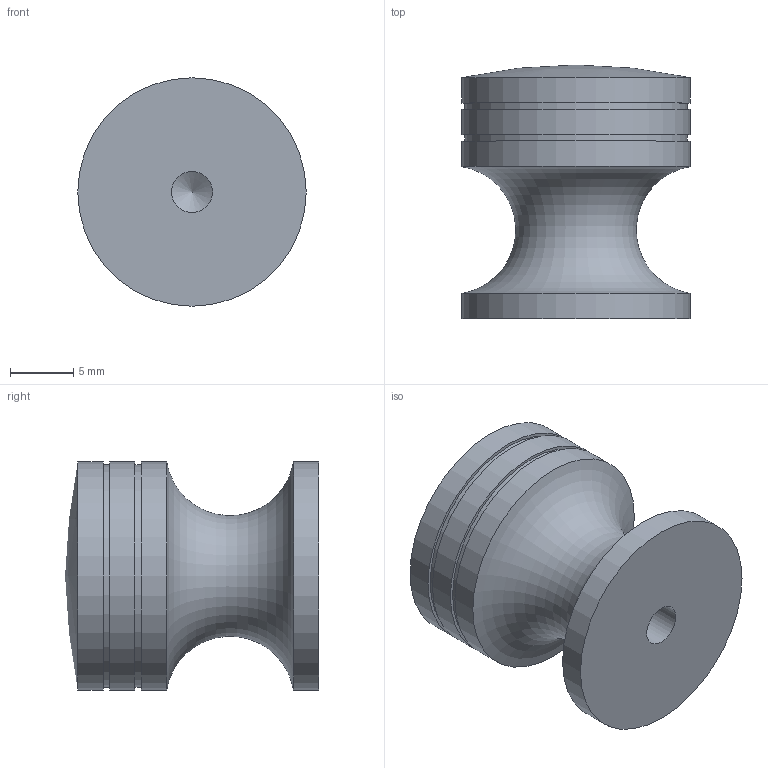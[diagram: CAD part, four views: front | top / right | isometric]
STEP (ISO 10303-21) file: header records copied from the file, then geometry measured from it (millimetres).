
FILE_DESCRIPTION(/* description */ (''),/* implementation_level */ '2;1');
FILE_NAME(/* name */ '\\NAS\db20\A-C2-18\DR_A-C2-18.stp',/* time_stamp */ '2017-07-07T10:35:20+09:00',/* author */ ('user'),/* organization */ (''),/* preprocessor_version */ 'ST-DEVELOPER v15.6',/* originating_system */ 'Autodesk Inventor 2015',/* authorisation */ '');
FILE_SCHEMA (('AUTOMOTIVE_DESIGN { 1 0 10303 214 3 1 1 }'));
Length unit declared in the file: millimetre
Products named in the file (1): DR_A-C2-18
Bounding box: 18 x 20 x 18 mm (x, y, z)
Volume: 3424.9 mm3; surface area: 1720.3 mm2
Topology: 1 solids, 1 shells, 15 faces, 24 edges, 15 vertices
Faces by surface type: cylinder 7, plane 5, cone 1, torus 1, sphere 1
Full cylindrical faces by diameter (mm): 3.242 x1, 17.5 x2, 18 x4
Entity records: 318 total; most frequent: DIRECTION 60, CARTESIAN_POINT 44, AXIS2_PLACEMENT_3D 30, EDGE_LOOP 28, ORIENTED_EDGE 28, FACE_OUTER_BOUND 15, ADVANCED_FACE 15, CIRCLE 14
